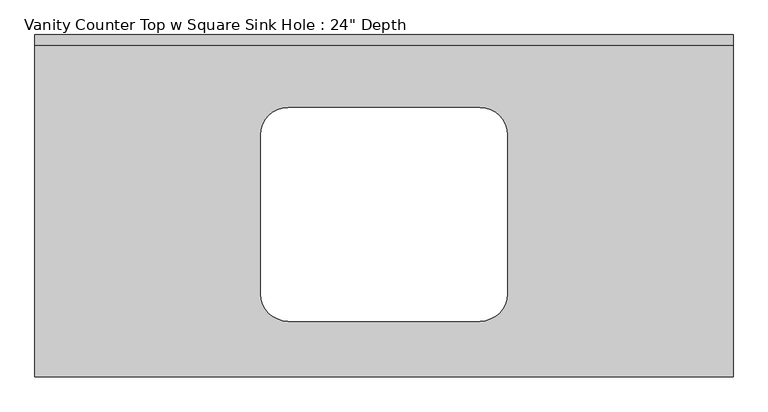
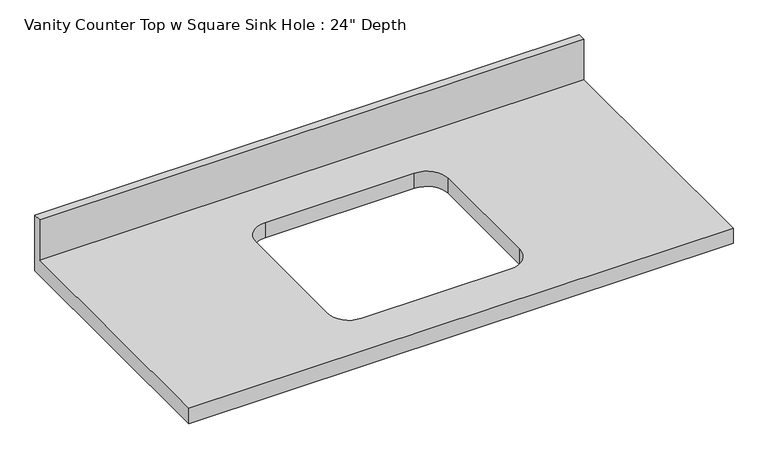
"""IFC4 building model written with IfcOpenShell, lengths in millimetres: furniture geometry."""

from ifc_helpers import new_model, si_unit, frame, origin, place, context, project, spatial, polyline, circle_curve, source, transform, mapped, element, save
from ifc_brep_helpers import plane_surface, revolved_surface, advanced_brep


def furniture_cad2585c(model_context):
    return source(origin(), model_context, "Body", "AdvancedBrep", [
        advanced_brep(
        [(-1268.7247951, -635.0, 787.4), (26.6752049, -635.0, 787.4), (26.6752049, -19.05, 787.4), (-1268.7247951, -19.05, 787.4), (-849.6247951, -185.7375, 787.4), (-798.8247951, -134.9375, 787.4), (-443.2247951, -134.9375, 787.4), (-392.4247951, -185.7375, 787.4), (-392.4247951, -481.0125, 787.4), (-443.2247951, -531.8125, 787.4), (-798.8247951, -531.8125, 787.4), (-849.6247951, -481.0125, 787.4), (26.6752049, 0.0, 749.3), (26.6752049, -635.0, 749.3), (-1268.7247951, -635.0, 749.3), (-1268.7247951, 0.0, 749.3), (-798.8247951, -134.9375, 749.3), (-849.6247951, -185.7375, 749.3), (-849.6247951, -481.0125, 749.3), (-798.8247951, -531.8125, 749.3), (-443.2247951, -531.8125, 749.3), (-392.4247951, -481.0125, 749.3), (-392.4247951, -185.7375, 749.3), (-443.2247951, -134.9375, 749.3), (-1268.7247951, 0.0, 889.0), (26.6752049, 0.0, 889.0), (-1268.7247951, -19.05, 889.0), (26.6752049, -19.05, 889.0)],
        [
            (0, 1),
            (1, 2),
            (2, 3),
            (3, 0),
            (4, 5, circle_curve(frame((-798.8247951, -185.7375, 787.4), z_axis=(0.0, 0.0, -1.0), x_axis=(1.0, 0.0, 0.0)), 50.8)),
            (5, 6),
            (6, 7, circle_curve(frame((-443.2247951, -185.7375, 787.4), z_axis=(0.0, 0.0, -1.0), x_axis=(1.0, 0.0, 0.0)), 50.8)),
            (7, 8),
            (8, 9, circle_curve(frame((-443.2247951, -481.0125, 787.4), z_axis=(0.0, 0.0, -1.0), x_axis=(1.0, 0.0, 0.0)), 50.8)),
            (9, 10),
            (10, 11, circle_curve(frame((-798.8247951, -481.0125, 787.4), z_axis=(0.0, 0.0, -1.0), x_axis=(1.0, 0.0, 0.0)), 50.8)),
            (11, 4),
            (12, 13),
            (13, 14),
            (14, 15),
            (15, 12),
            (16, 17, circle_curve(frame((-798.8247951, -185.7375, 749.3), z_axis=(0.0, 0.0, 1.0), x_axis=(1.0, 0.0, 0.0)), 50.8)),
            (17, 18),
            (18, 19, circle_curve(frame((-798.8247951, -481.0125, 749.3), z_axis=(0.0, 0.0, 1.0), x_axis=(1.0, 0.0, 0.0)), 50.8)),
            (19, 20),
            (20, 21, circle_curve(frame((-443.2247951, -481.0125, 749.3), z_axis=(0.0, 0.0, 1.0), x_axis=(1.0, 0.0, 0.0)), 50.8)),
            (21, 22),
            (22, 23, circle_curve(frame((-443.2247951, -185.7375, 749.3), z_axis=(0.0, 0.0, 1.0), x_axis=(1.0, 0.0, 0.0)), 50.8)),
            (23, 16),
            (15, 24),
            (24, 25),
            (25, 12),
            (14, 0),
            (3, 26),
            (26, 24),
            (13, 1),
            (25, 27),
            (27, 2),
            (26, 27),
            (4, 17),
            (16, 5),
            (11, 18),
            (10, 19),
            (9, 20),
            (8, 21),
            (7, 22),
            (6, 23),
        ],
        [
            plane_surface(frame((-1268.7247951, 0.0, 787.4), z_axis=(0.0, 0.0, 1.0), x_axis=(-1.0, 0.0, 0.0))),
            plane_surface(frame((-1268.7247951, 0.0, 749.3), z_axis=(0.0, 0.0, -1.0), x_axis=(1.0, 0.0, 0.0))),
            plane_surface(frame((26.6752049, 0.0, 787.4), z_axis=(0.0, 1.0, 0.0), x_axis=(0.0, 0.0, -1.0))),
            plane_surface(frame((-1268.7247951, 0.0, 787.4), z_axis=(-1.0, 0.0, 0.0), x_axis=(0.0, 0.0, -1.0))),
            plane_surface(frame((-1268.7247951, -635.0, 787.4), z_axis=(0.0, -1.0, 0.0), x_axis=(0.0, 0.0, -1.0))),
            plane_surface(frame((26.6752049, -635.0, 787.4), z_axis=(1.0, 0.0, 0.0), x_axis=(0.0, 0.0, -1.0))),
            plane_surface(frame((-1268.7247951, 0.0, 889.0), z_axis=(0.0, 0.0, 1.0), x_axis=(0.0, -1.0, 0.0))),
            plane_surface(frame((-1268.7247951, -19.05, 889.0), z_axis=(0.0, -1.0, 0.0), x_axis=(0.0, 0.0, -1.0))),
            revolved_surface(polyline([(-748.0247951, -185.7375, 787.4), (-748.0247951, -185.7375, 749.3)]), (-798.8247951, -185.7375, 749.3), (0.0, 0.0, 1.0)),
            plane_surface(frame((-849.6247951, -185.7375, 787.4), z_axis=(1.0, 0.0, 0.0), x_axis=(0.0, 0.0, -1.0))),
            revolved_surface(polyline([(-748.0247951, -481.0125, 787.4), (-748.0247951, -481.0125, 749.3)]), (-798.8247951, -481.0125, 749.3), (0.0, 0.0, 1.0)),
            plane_surface(frame((-798.8247951, -531.8125, 787.4), z_axis=(0.0, 1.0, 0.0), x_axis=(0.0, 0.0, -1.0))),
            revolved_surface(polyline([(-392.4247951, -481.0125, 787.4), (-392.4247951, -481.0125, 749.3)]), (-443.2247951, -481.0125, 749.3), (0.0, 0.0, 1.0)),
            plane_surface(frame((-392.4247951, -481.0125, 787.4), z_axis=(-1.0, 0.0, 0.0), x_axis=(0.0, 0.0, -1.0))),
            revolved_surface(polyline([(-392.4247951, -185.7375, 787.4), (-392.4247951, -185.7375, 749.3)]), (-443.2247951, -185.7375, 749.3), (0.0, 0.0, 1.0)),
            plane_surface(frame((-443.2247951, -134.9375, 787.4), z_axis=(0.0, -1.0, 0.0), x_axis=(0.0, 0.0, -1.0))),
        ],
        [
            (0, [[1, 2, 3, 4], [5, 6, 7, 8, 9, 10, 11, 12]]),
            (1, [[13, 14, 15, 16], [17, 18, 19, 20, 21, 22, 23, 24]]),
            (2, [[-16, 25, 26, 27]]),
            (3, [[-15, 28, -4, 29, 30, -25]]),
            (4, [[-1, -28, -14, 31]]),
            (5, [[-13, -27, 32, 33, -2, -31]]),
            (6, [[-30, 34, -32, -26]]),
            (7, [[-34, -29, -3, -33]]),
            (8, [[35, -17, 36, -5]]),
            (9, [[-35, -12, 37, -18]]),
            (10, [[-37, -11, 38, -19]]),
            (11, [[-38, -10, 39, -20]]),
            (12, [[-39, -9, 40, -21]]),
            (13, [[-40, -8, 41, -22]]),
            (14, [[-41, -7, 42, -23]]),
            (15, [[-36, -24, -42, -6]]),
        ],
    ),
    ])


if __name__ == "__main__":
    model = new_model("IFC4")
    model_context = context("Model", 3, world=origin())
    ifc_project = project(units=[si_unit("LENGTHUNIT", "METRE", prefix="MILLI")], contexts=[model_context])
    site = spatial("IfcSite", under=ifc_project)
    building = spatial("IfcBuilding", under=site)
    placement = place(None, origin())
    furniture_shape = furniture_cad2585c(model_context)
    element("IfcFurniture", 1, ObjectType="Vanity Counter Top w Square Sink Hole : 24\" Depth", at=placement, inside=building, context=model_context, shape_type="MappedRepresentation", body=[
        mapped(furniture_shape, transform((0.0, 0.0, 0.0), x_axis=(1.0, 0.0, 0.0), y_axis=(0.0, 1.0, 0.0), z_axis=(0.0, 0.0, 1.0))),
    ])
    save(model, "model.ifc")
